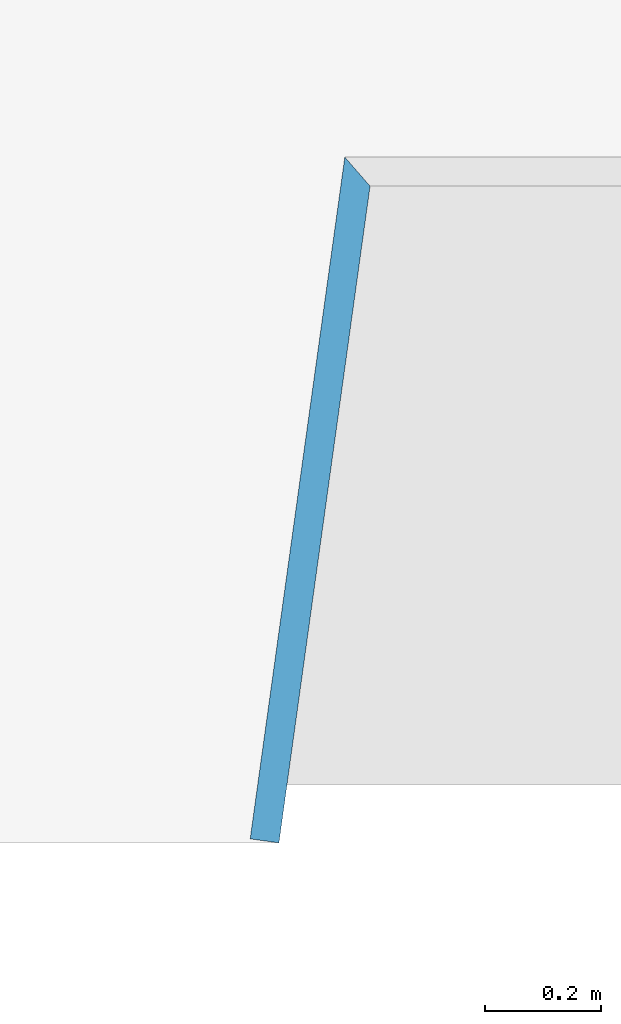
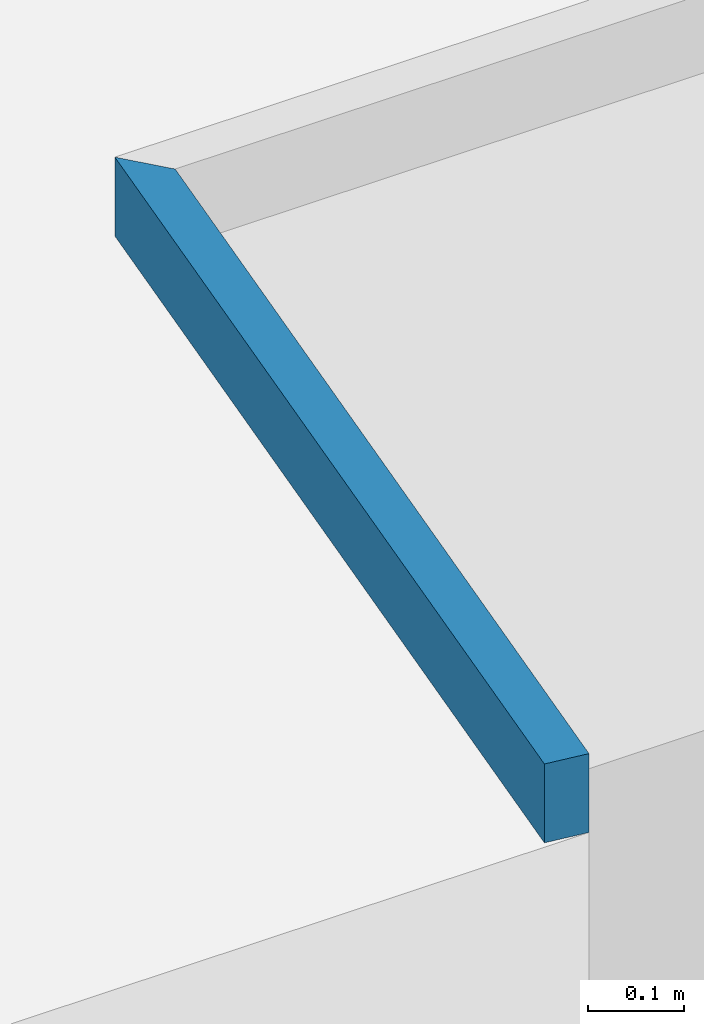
# One storey, part 57 of 171: 1 wall.
"""IFC2X3 building model written with IfcOpenShell, lengths in millimetres."""

from ifc_helpers import new_model, entity, si_unit, converted_unit, derived_unit, money_unit, direction, frame, origin_with_axes, place, context, subcontext, project, spatial, polyline, outline, extrude, material, layer, layer_set, layer_usage, type_object, element, save


model = new_model("IFC2X3")

# Units and contexts
model_context = context("Model", 3, precision=0.01, world=origin_with_axes(), true_north=direction((0.0, 1.0)))
body_context = subcontext(model_context, "Body", "Model", "MODEL_VIEW")
ifc_project = project(units=[si_unit("LENGTHUNIT", "METRE", prefix="MILLI"), si_unit("AREAUNIT", "SQUARE_METRE"), si_unit("VOLUMEUNIT", "CUBIC_METRE"), converted_unit("PLANEANGLEUNIT", "DEGREE", entity("IfcPlaneAngleMeasure", 0.0174532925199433), si_unit("PLANEANGLEUNIT", "RADIAN"), dimensions=[0, 0, 0, 0, 0, 0, 0]), money_unit("USD"), converted_unit("TIMEUNIT", "Year", entity("IfcTimeMeasure", 31557600.0), si_unit("TIMEUNIT", "SECOND"), dimensions=[0, 0, 1, 0, 0, 0, 0]), si_unit("MASSUNIT", "GRAM", prefix="KILO"), si_unit("THERMODYNAMICTEMPERATUREUNIT", "DEGREE_CELSIUS"), si_unit("LUMINOUSINTENSITYUNIT", "LUMEN"), si_unit("ENERGYUNIT", "JOULE", prefix="MEGA"), derived_unit("THERMALCONDUCTANCEUNIT", [(si_unit("POWERUNIT", "WATT"), 1), (si_unit("LENGTHUNIT", "METRE"), -1), (si_unit("THERMODYNAMICTEMPERATUREUNIT", "KELVIN"), -1)]), derived_unit("SPECIFICHEATCAPACITYUNIT", [(si_unit("ENERGYUNIT", "JOULE"), 1), (si_unit("MASSUNIT", "GRAM", prefix="KILO"), -1), (si_unit("THERMODYNAMICTEMPERATUREUNIT", "KELVIN"), -1)]), derived_unit("MASSDENSITYUNIT", [(si_unit("MASSUNIT", "GRAM", prefix="KILO"), 1), (si_unit("VOLUMEUNIT", "CUBIC_METRE"), -1)])], contexts=[model_context])

# Site, building, storey
site_placement = place(None, origin_with_axes())
site = spatial("IfcSite", under=ifc_project, at=site_placement, Name="Site", CompositionType="ELEMENT")
building_placement = place(site_placement, origin_with_axes())
building = spatial("IfcBuilding", under=site, at=building_placement, Name="Bâtiment", CompositionType="ELEMENT")
storey_placement = place(building_placement, frame((0.0, 0.0, 3000.0), z_axis=(0.0, 0.0, 1.0), x_axis=(1.0, 0.0, 0.0)))
storey = spatial("IfcBuildingStorey", under=building, at=storey_placement, Name="rdc", CompositionType="ELEMENT", Elevation=3000.0)

# Wall
ifc_material = material(Name="Hachure solide 268963992")
ifc_layer = layer(ifc_material, 50.0, ventilated="UNKNOWN")
ifc_layer_set = layer_set([ifc_layer], Name="Cloison 50")
ifc_layer_usage = layer_usage(ifc_layer_set, "AXIS2", "NEGATIVE", 0.0)
wall_type = type_object("IfcWallType", Name="Cloison 50 50", PredefinedType="NOTDEFINED")
wall_placement = place(storey_placement, frame((2244172.273330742, -631657.9104171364, 0.0), z_axis=(0.0, 0.0, 1.0), x_axis=(-0.1374856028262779, -0.9905037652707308, 0.0)))
element("IfcWallStandardCase", 1, at=wall_placement, inside=storey, type_object=wall_type, material=ifc_layer_usage, Name="Mur-165", context=body_context, shape_type="SweptSolid", body=[
    extrude(outline(polyline([(-43.54005857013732, -49.99999999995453), (1142.604778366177, -49.99999999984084), (1142.604778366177, 0.0), (0.0, 0.0), (-43.54005857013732, -49.99999999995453)])), origin_with_axes(), (0.0, 0.0, 1.0), 100.0),
])

save(model, "model.ifc")
